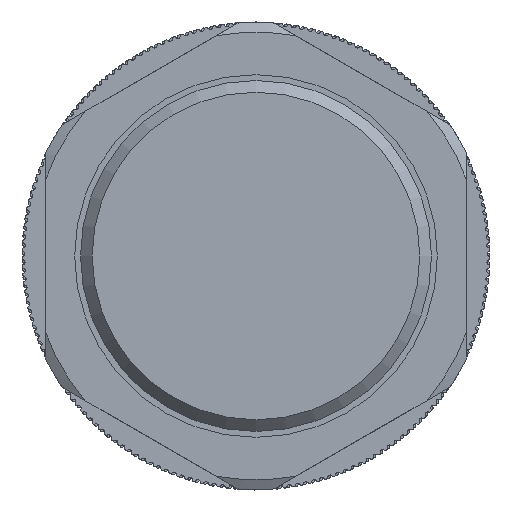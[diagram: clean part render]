
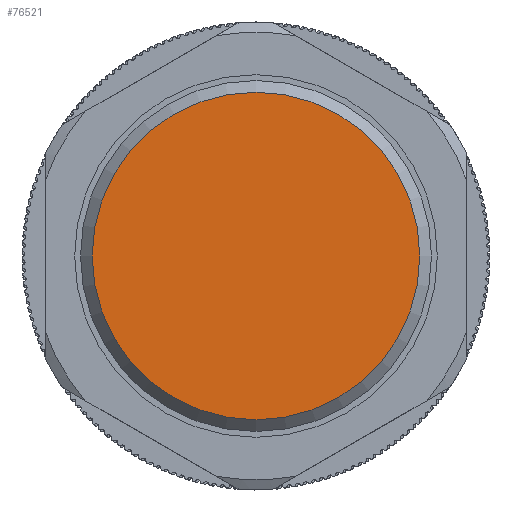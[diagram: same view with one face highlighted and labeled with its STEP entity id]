
A CAD part, front view. The second image highlights one B-rep face of the part: STEP entity #76521.
In plain terms, the highlighted planar face has unit normal (0, -1, 0).
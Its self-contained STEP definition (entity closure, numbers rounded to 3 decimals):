
#76505=CARTESIAN_POINT('',(-7.,0.,0.0));
#76506=DIRECTION('',(0.0,-1.0,0.0));
#76507=DIRECTION('',(0.0,0.0,-1.0));
#76508=AXIS2_PLACEMENT_3D('',#76505,#76506,#76507);
#76509=PLANE('',#76508);
#76510=CARTESIAN_POINT('',(-14.,0.,0.0));
#76511=VERTEX_POINT('',#76510);
#76512=CARTESIAN_POINT('',(0.0,0.0,0.0));
#76513=DIRECTION('',(0.0,1.0,0.0));
#76514=DIRECTION('',(-1.0,0.0,0.0));
#76515=AXIS2_PLACEMENT_3D('',#76512,#76513,#76514);
#76516=CIRCLE('',#76515,14.);
#76517=EDGE_CURVE('',#76511,#76511,#76516,.T.);
#76518=ORIENTED_EDGE('',*,*,#76517,.F.);
#76519=EDGE_LOOP('',(#76518));
#76520=FACE_OUTER_BOUND('',#76519,.T.);
#76521=ADVANCED_FACE('',(#76520),#76509,.T.);
